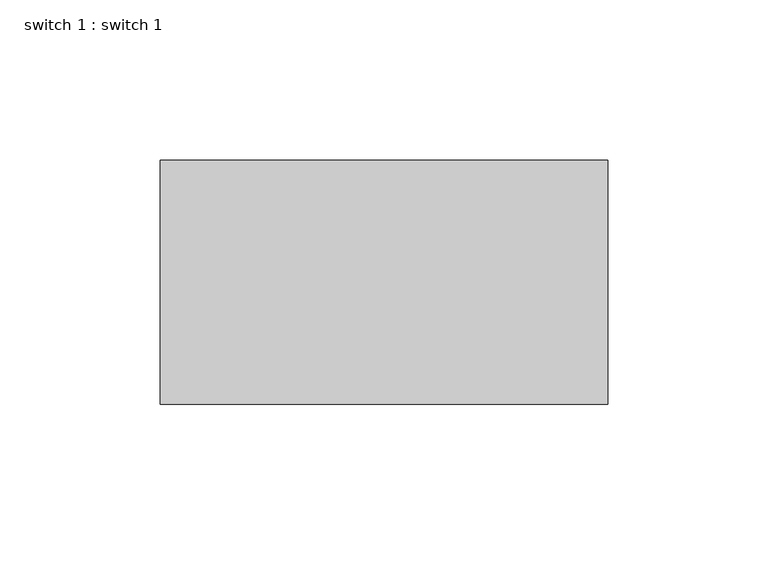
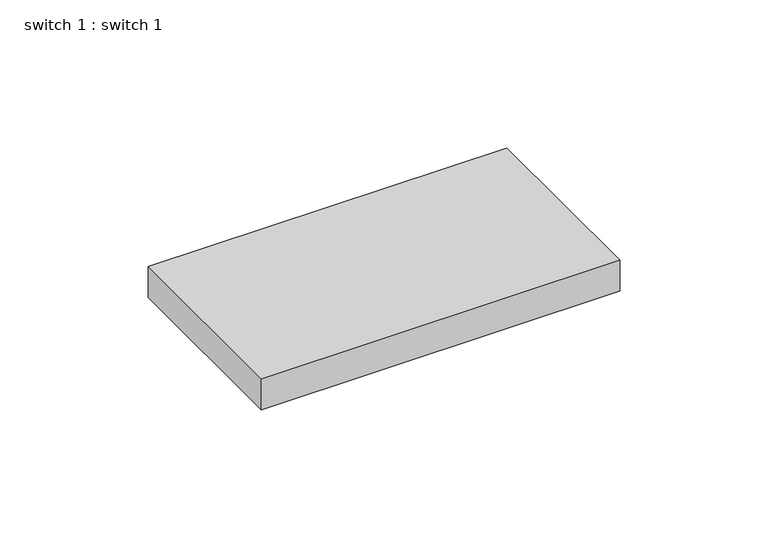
"""IFC4 building model written with IfcOpenShell, lengths in millimetres: proxy geometry, switch 1 : switch 1."""

import ifcopenshell
import ifcopenshell.guid

model = None  # the IFC model being written
_history = None  # IfcOwnerHistory: only IFC2X3 demands one
_inside = {}  # id of a spatial element -> (the spatial element, [elements in it])
_under = {}  # id of a project, library or spatial element -> (it, [spatial elements below it])
_declared = {}  # id of a project -> (the project, [libraries it declares])
_typed = {}  # id of a type object -> (the type object, [elements of that type])
_made_of = {}  # id of a material, layer set ... -> (it, [elements and type objects made of it])


def new_model(schema):
    """Start an empty IFC model of exactly this schema.

    Asked for "IFC4X3", IfcOpenShell would pick the latest addendum, in which some entities
    have other attributes; the version numbers below select the first issue.
    IFC2X3 requires an IfcOwnerHistory on every rooted entity: one is made here for all.
    """
    global model, _history
    if schema == "IFC4X3":
        model = ifcopenshell.file(schema_version=(4, 3, 0, 0))
    else:
        model = ifcopenshell.file(schema=schema)
    _inside.clear()
    _under.clear()
    _declared.clear()
    _typed.clear()
    _made_of.clear()
    _history = None
    if model.schema == "IFC2X3":
        org = make("IfcOrganization", Name="unknown")
        user = make(
            "IfcPersonAndOrganization",
            ThePerson=make("IfcPerson", FamilyName="unknown"),
            TheOrganization=org,
        )
        app = make(
            "IfcApplication",
            ApplicationDeveloper=org,
            Version="unknown",
            ApplicationFullName="unknown",
            ApplicationIdentifier="unknown",
        )
        _history = make(
            "IfcOwnerHistory",
            OwningUser=user,
            OwningApplication=app,
            ChangeAction="ADDED",
            CreationDate=0,
        )
    return model


def make(cls, **values):
    """One entity of the class cls with the attributes given. An attribute that is None is left unset."""
    return model.create_entity(
        cls, **{name: value for name, value in values.items() if value is not None}
    )


def rooted(cls, **values):
    """An entity with a GlobalId (a new one), such as an element, a storey or a relation."""
    return make(cls, GlobalId=ifcopenshell.guid.new(), OwnerHistory=_history, **values)


def si_unit(unit_type, name, prefix=None):
    """IfcSIUnit, for example si_unit("LENGTHUNIT", "METRE", prefix="MILLI")."""
    return make("IfcSIUnit", UnitType=unit_type, Prefix=prefix, Name=name)


def assignment(units):
    """IfcUnitAssignment: the units of a project."""
    return None if units is None else make("IfcUnitAssignment", Units=units)


def point(xyz):
    """IfcCartesianPoint."""
    return None if xyz is None else make("IfcCartesianPoint", Coordinates=xyz)


def direction(xyz):
    """IfcDirection."""
    return None if xyz is None else make("IfcDirection", DirectionRatios=xyz)


def frame(location, z_axis=None, x_axis=None):
    """IfcAxis2Placement3D, a coordinate frame: its origin and axes. An axis left out is left unset."""
    return make(
        "IfcAxis2Placement3D",
        Location=point(location),
        Axis=direction(z_axis),
        RefDirection=direction(x_axis),
    )


def origin():
    """The frame at (0, 0, 0) with its axes left unset."""
    return frame((0.0, 0.0, 0.0))


def origin_with_axes():
    """The frame at (0, 0, 0) with the z axis (0, 0, 1) and the x axis (1, 0, 0) written out."""
    return frame((0.0, 0.0, 0.0), z_axis=(0.0, 0.0, 1.0), x_axis=(1.0, 0.0, 0.0))


def place(relative_to, where):
    """IfcLocalPlacement: puts the frame where relative to a parent placement (None: the world)."""
    return make(
        "IfcLocalPlacement", PlacementRelTo=relative_to, RelativePlacement=where
    )


def context(
    kind, dimensions, precision=None, world=None, true_north=None, identifier=None
):
    """IfcGeometricRepresentationContext, for example the 3D "Model" context."""
    return make(
        "IfcGeometricRepresentationContext",
        ContextIdentifier=identifier,
        ContextType=kind,
        CoordinateSpaceDimension=dimensions,
        Precision=precision,
        WorldCoordinateSystem=world,
        TrueNorth=true_north,
    )


def project(units=None, contexts=None):
    """IfcProject with its units and contexts."""
    return rooted(
        "IfcProject",
        Name="project",
        RepresentationContexts=contexts,
        UnitsInContext=assignment(units),
    )


def spatial(cls, under=None, at=None, **own):
    """A site, building, storey or space (cls), placed at a placement, below another one or the project."""
    s = rooted(cls, ObjectPlacement=at, **own)
    if under is not None:
        _under.setdefault(under.id(), (under, []))[1].append(s)
    return s


def polyline(points):
    """IfcPolyline through the points."""
    return make("IfcPolyline", Points=[point(p) for p in points])


def outline(outer, holes=None, kind="AREA"):
    """IfcArbitraryClosedProfileDef: a profile drawn as a closed curve; with holes, ...WithVoids."""
    if holes is None:
        return make("IfcArbitraryClosedProfileDef", ProfileType=kind, OuterCurve=outer)
    return make(
        "IfcArbitraryProfileDefWithVoids",
        ProfileType=kind,
        OuterCurve=outer,
        InnerCurves=holes,
    )


def extrude(swept, where, along, depth):
    """IfcExtrudedAreaSolid: the profile swept, set in the frame where, extruded along a direction by depth."""
    return make(
        "IfcExtrudedAreaSolid",
        SweptArea=swept,
        Position=where,
        ExtrudedDirection=direction(along),
        Depth=depth,
    )


def shape(context_of_items, identifier, shape_type, items):
    """IfcShapeRepresentation: the items that make up one representation, for example the "Body"."""
    return make(
        "IfcShapeRepresentation",
        ContextOfItems=context_of_items,
        RepresentationIdentifier=identifier,
        RepresentationType=shape_type,
        Items=items,
    )


def source(mapping_origin, context_of_items, identifier, shape_type, items):
    """IfcRepresentationMap: a shape defined once, which mapped items show again and again."""
    return make(
        "IfcRepresentationMap",
        MappingOrigin=mapping_origin,
        MappedRepresentation=shape(context_of_items, identifier, shape_type, items),
    )


def transform(
    local_origin,
    x_axis=None,
    y_axis=None,
    z_axis=None,
    scale=None,
    scale2=None,
    scale3=None,
    uniform=True,
):
    """IfcCartesianTransformationOperator3D, or its non-uniform kind. x_axis, y_axis, z_axis: its Axis1, 2, 3."""
    if uniform:
        return make(
            "IfcCartesianTransformationOperator3D",
            Axis1=direction(x_axis),
            Axis2=direction(y_axis),
            LocalOrigin=point(local_origin),
            Scale=scale,
            Axis3=direction(z_axis),
        )
    return make(
        "IfcCartesianTransformationOperator3DnonUniform",
        Axis1=direction(x_axis),
        Axis2=direction(y_axis),
        LocalOrigin=point(local_origin),
        Scale=scale,
        Axis3=direction(z_axis),
        Scale2=scale2,
        Scale3=scale3,
    )


def mapped(mapping_source, mapping_target):
    """IfcMappedItem: shows the shape of a source again, moved by a transform."""
    return make(
        "IfcMappedItem", MappingSource=mapping_source, MappingTarget=mapping_target
    )


def made_of(thing, what):
    """Note that an element or type object is made of a material, layer set ...; save() writes the relation."""
    if what is not None:
        _made_of.setdefault(what.id(), (what, []))[1].append(thing)
    return thing


def element(
    cls,
    number,
    at=None,
    inside=None,
    cuts=None,
    type_object=None,
    material=None,
    context=None,
    identifier="Body",
    shape_type=None,
    held_by="IfcProductDefinitionShape",
    body=None,
    shapes=None,
    **own,
):
    """One element of the class cls, such as IfcWall. Its Tag is "e" and its number.

    at: its placement. inside: the storey or other place that contains it. cuts: it is an
    opening in that element (IfcRelVoidsElement). A single representation is given by context,
    identifier, shape_type and body (its items); several are given by shapes. held_by: the class
    of the entity that holds the representations. save() writes the other relations.
    """
    e = rooted(cls, Tag="e%d" % number, ObjectPlacement=at, **own)
    if body is not None:
        shapes = [shape(context, identifier, shape_type, body)]
    if shapes is not None:
        e.Representation = make(held_by, Representations=shapes)
    if inside is not None:
        _inside.setdefault(inside.id(), (inside, []))[1].append(e)
    if cuts is not None:
        rooted(
            "IfcRelVoidsElement", RelatingBuildingElement=cuts, RelatedOpeningElement=e
        )
    if type_object is not None:
        _typed.setdefault(type_object.id(), (type_object, []))[1].append(e)
    return made_of(e, material)


def aggregate(whole, parts):
    """IfcRelAggregates: a whole, such as a stair, and the parts it consists of."""
    return rooted("IfcRelAggregates", RelatingObject=whole, RelatedObjects=parts)


def save(model, path):
    """Write the relations noted so far, then the file.

    IfcRelAggregates (storeys below a building ...), IfcRelContainedInSpatialStructure (elements
    in a storey), IfcRelDefinesByType, IfcRelAssociatesMaterial and IfcRelDeclares: one each for
    every whole, place, type object, material and project.
    """
    for whole, parts in _under.values():
        aggregate(whole, parts)
    for where, things in _inside.values():
        rooted(
            "IfcRelContainedInSpatialStructure",
            RelatedElements=things,
            RelatingStructure=where,
        )
    for kind, things in _typed.values():
        rooted("IfcRelDefinesByType", RelatedObjects=things, RelatingType=kind)
    for what, things in _made_of.values():
        rooted("IfcRelAssociatesMaterial", RelatedObjects=things, RelatingMaterial=what)
    for by, libraries in _declared.values():
        rooted("IfcRelDeclares", RelatingContext=by, RelatedDefinitions=libraries)
    model.write(path)


def switch_1_switch_1_dede19c3(model_context):
    return source(origin(), model_context, "Body", "SweptSolid", [
        extrude(outline(polyline([(-69.85, 0.0), (-69.85, 76.2), (69.85, 76.2), (69.85, 0.0), (-69.85, 0.0)])), origin_with_axes(), (0.0, 0.0, 1.0), 12.7),
    ])


if __name__ == "__main__":
    model = new_model("IFC4")
    model_context = context("Model", 3, world=origin())
    ifc_project = project(units=[si_unit("LENGTHUNIT", "METRE", prefix="MILLI")], contexts=[model_context])
    site = spatial("IfcSite", under=ifc_project)
    building = spatial("IfcBuilding", under=site)
    placement = place(None, origin())
    switch_1_switch_1_shape = switch_1_switch_1_dede19c3(model_context)
    element("IfcBuildingElementProxy", 1, Name="switch 1 : switch 1", ObjectType="switch 1 : switch 1", at=placement, inside=building, context=model_context, shape_type="MappedRepresentation", body=[
        mapped(switch_1_switch_1_shape, transform((0.0, 0.0, 0.0), x_axis=(1.0, 0.0, 0.0), y_axis=(0.0, 1.0, 0.0), z_axis=(0.0, 0.0, 1.0))),
    ])
    save(model, "model.ifc")
